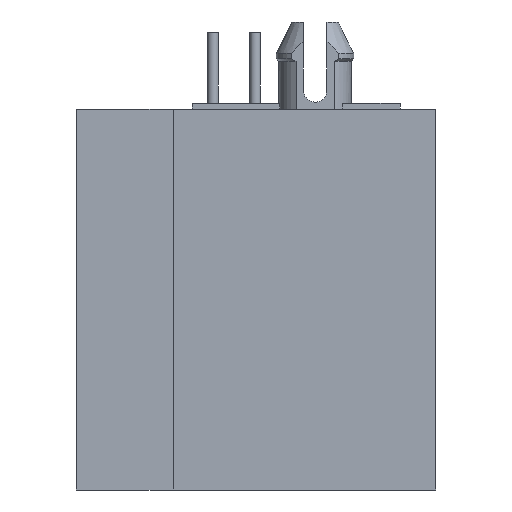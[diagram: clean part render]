
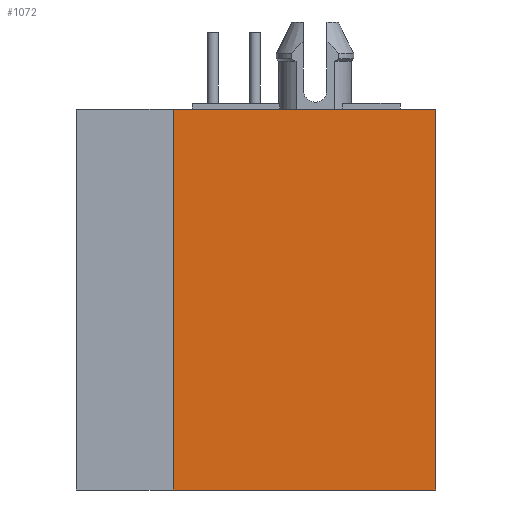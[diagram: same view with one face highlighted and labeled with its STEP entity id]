
A CAD part, front view. The second image highlights one B-rep face of the part: STEP entity #1072.
In plain terms, the highlighted planar face has unit normal (0, -1, 0).
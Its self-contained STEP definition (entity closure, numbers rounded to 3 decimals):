
#135 = LINE ( 'NONE', #15145, #11496 ) ;
#237 = VERTEX_POINT ( 'NONE', #16623 ) ;
#432 = CARTESIAN_POINT ( 'NONE',  ( -5.55, -7.95, 6.35 ) ) ;
#458 = EDGE_CURVE ( 'NONE', #16967, #237, #1145, .T. ) ;
#830 = CARTESIAN_POINT ( 'NONE',  ( -11.1, -7.95, 6.35 ) ) ;
#1072 = ADVANCED_FACE ( 'NONE', ( #3023 ), #12682, .F. ) ;
#1145 = LINE ( 'NONE', #12312, #1827 ) ;
#1309 = CARTESIAN_POINT ( 'NONE',  ( -7.6, -7.95, 0. ) ) ;
#1827 = VECTOR ( 'NONE', #6856, 1000. ) ;
#2989 = DIRECTION ( 'NONE',  ( 1., 0., 0. ) ) ;
#3023 = FACE_OUTER_BOUND ( 'NONE', #11475, .T. ) ;
#3231 = CARTESIAN_POINT ( 'NONE',  ( -11.1, -7.95, 16.1 ) ) ;
#3347 = LINE ( 'NONE', #830, #12359 ) ;
#3708 = DIRECTION ( 'NONE',  ( 1., 0., 0. ) ) ;
#3809 = VERTEX_POINT ( 'NONE', #15046 ) ;
#6333 = ORIENTED_EDGE ( 'NONE', *, *, #458, .F. ) ;
#6833 = LINE ( 'NONE', #1309, #6948 ) ;
#6856 = DIRECTION ( 'NONE',  ( 0., 0., -1. ) ) ;
#6948 = VECTOR ( 'NONE', #3708, 1000. ) ;
#8468 = DIRECTION ( 'NONE',  ( 0., 1., 0. ) ) ;
#8967 = DIRECTION ( 'NONE',  ( 0., 0., 1. ) ) ;
#9194 = ORIENTED_EDGE ( 'NONE', *, *, #12916, .F. ) ;
#10533 = ORIENTED_EDGE ( 'NONE', *, *, #12763, .T. ) ;
#10798 = VERTEX_POINT ( 'NONE', #3231 ) ;
#11475 = EDGE_LOOP ( 'NONE', ( #6333, #9194, #16986, #10533 ) ) ;
#11496 = VECTOR ( 'NONE', #2989, 1000. ) ;
#12312 = CARTESIAN_POINT ( 'NONE',  ( 0., -7.95, 6.35 ) ) ;
#12320 = DIRECTION ( 'NONE',  ( 1., 0., 0. ) ) ;
#12359 = VECTOR ( 'NONE', #8967, 1000. ) ;
#12682 = PLANE ( 'NONE',  #16694 ) ;
#12763 = EDGE_CURVE ( 'NONE', #3809, #237, #6833, .T. ) ;
#12916 = EDGE_CURVE ( 'NONE', #10798, #16967, #135, .T. ) ;
#14135 = EDGE_CURVE ( 'NONE', #3809, #10798, #3347, .T. ) ;
#15046 = CARTESIAN_POINT ( 'NONE',  ( -11.1, -7.95, 0. ) ) ;
#15145 = CARTESIAN_POINT ( 'NONE',  ( -7.6, -7.95, 16.1 ) ) ;
#15923 = CARTESIAN_POINT ( 'NONE',  ( 0., -7.95, 16.1 ) ) ;
#16623 = CARTESIAN_POINT ( 'NONE',  ( 0., -7.95, 0. ) ) ;
#16694 = AXIS2_PLACEMENT_3D ( 'NONE', #432, #8468, #12320 ) ;
#16967 = VERTEX_POINT ( 'NONE', #15923 ) ;
#16986 = ORIENTED_EDGE ( 'NONE', *, *, #14135, .F. ) ;
